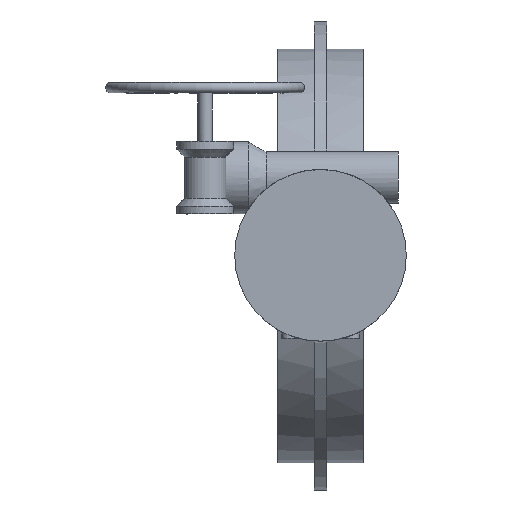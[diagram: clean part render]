
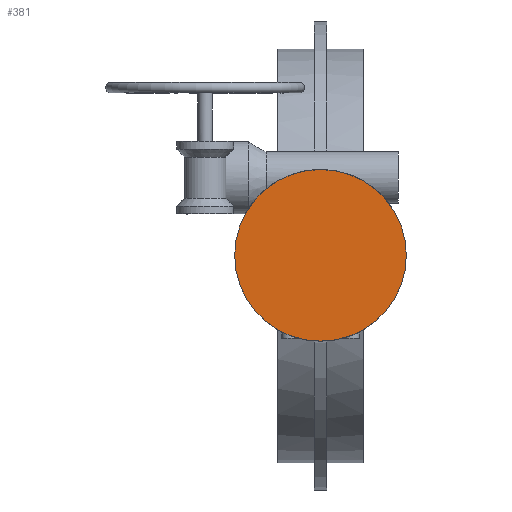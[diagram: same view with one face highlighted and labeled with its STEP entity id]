
A CAD part, top view. The second image highlights one B-rep face of the part: STEP entity #381.
In plain terms, the highlighted planar face has unit normal (0, 0, 1).
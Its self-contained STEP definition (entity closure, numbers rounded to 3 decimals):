
#381=ADVANCED_FACE('',(#6588),#6590,.T.);
#6588=FACE_BOUND('',#6589,.T.);
#6589=EDGE_LOOP('',(#11478));
#6590=PLANE('',#6591);
#6591=AXIS2_PLACEMENT_3D('',#6592,#6593,#6594);
#6592=CARTESIAN_POINT('',(0.,0.,760.));
#6593=DIRECTION('',(0.,0.,1.));
#6594=DIRECTION('',(0.,-1.,0.));
#11478=ORIENTED_EDGE('',*,*,#15150,.T.);
#15150=EDGE_CURVE('',#17046,#17046,#17047,.T.);
#17046=VERTEX_POINT('',#20292);
#17047=CIRCLE('',#20293,166.);
#20292=CARTESIAN_POINT('',(0.,-166.,760.));
#20293=AXIS2_PLACEMENT_3D('',#20294,#20295,#20296);
#20294=CARTESIAN_POINT('',(0.,0.,760.));
#20295=DIRECTION('',(0.,0.,1.));
#20296=DIRECTION('',(0.,-1.,0.));
